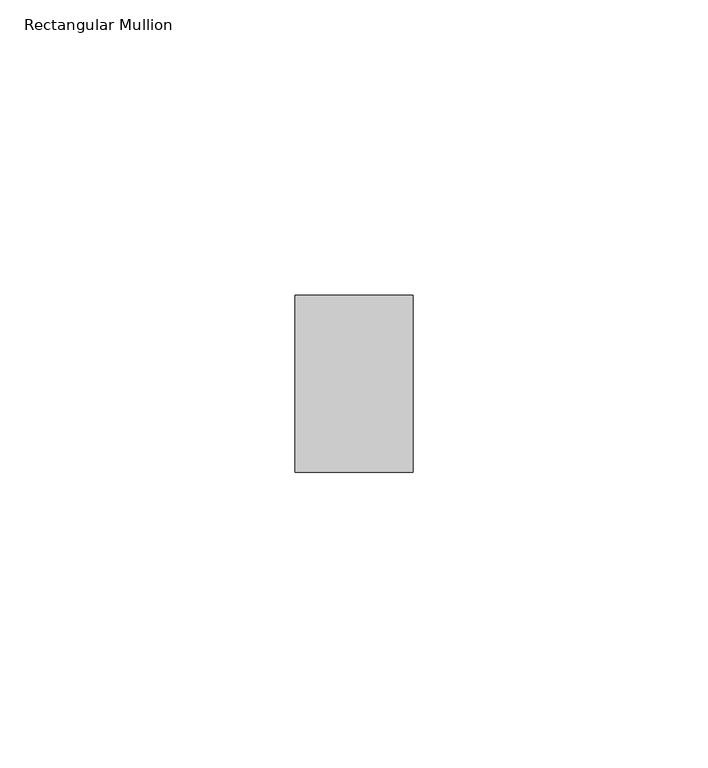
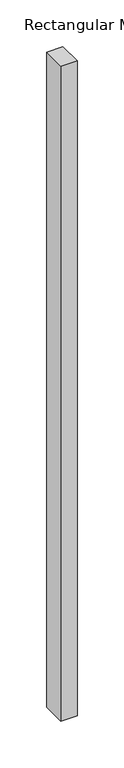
"""IFC4 building model written with IfcOpenShell, lengths in millimetres: member geometry, Rectangular Mullion : ARQ_TV_MULL_30x20mm."""

from ifc_helpers import new_model, si_unit, frame, origin, place, context, project, spatial, polyline, outline, extrude, source, transform, mapped, element, save


def rectangular_mullion_00d0a17d(model_context):
    return source(origin(), model_context, "Body", "SweptSolid", [
        extrude(outline(polyline([(10.0, 15.0), (10.0, -15.0), (-10.0, -15.0), (-10.0, 15.0), (10.0, 15.0)])), frame((0.0, 0.0, -855.0), z_axis=(0.0, 0.0, 1.0), x_axis=(1.0, 0.0, 0.0)), (0.0, 0.0, 1.0), 855.0),
    ])


if __name__ == "__main__":
    model = new_model("IFC4")
    model_context = context("Model", 3, world=origin())
    ifc_project = project(units=[si_unit("LENGTHUNIT", "METRE", prefix="MILLI")], contexts=[model_context])
    site = spatial("IfcSite", under=ifc_project)
    building = spatial("IfcBuilding", under=site)
    placement = place(None, origin())
    rectangular_mullion_shape = rectangular_mullion_00d0a17d(model_context)
    element("IfcMember", 1, ObjectType="Rectangular Mullion : ARQ_TV_MULL_30x20mm", at=placement, inside=building, context=model_context, shape_type="MappedRepresentation", body=[
        mapped(rectangular_mullion_shape, transform((0.0, 0.0, 0.0), x_axis=(1.0, 0.0, 0.0), y_axis=(0.0, 1.0, 0.0), z_axis=(0.0, 0.0, 1.0))),
    ])
    save(model, "model.ifc")
